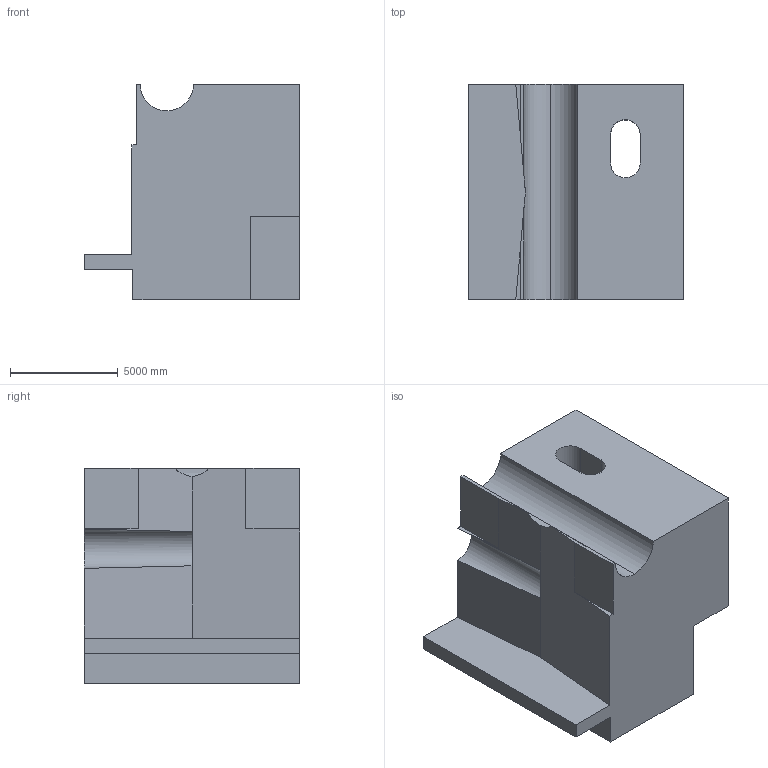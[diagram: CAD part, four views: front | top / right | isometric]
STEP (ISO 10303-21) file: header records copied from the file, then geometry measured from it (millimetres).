
FILE_DESCRIPTION (( 'STEP AP203' ), '1' );
FILE_NAME ('321.STEP', '2022-09-07T12:51:22', ( 'user' ), ( '' ), 'SwSTEP 2.0', 'SolidWorks 2021', '' );
FILE_SCHEMA (( 'CONFIG_CONTROL_DESIGN' ));
Length unit declared in the file: centimetre
Products named in the file (1): 321
Bounding box: 10000 x 10000 x 10000 mm (x, y, z)
Volume: 689323327172.8 mm3; surface area: 631994592.5 mm2
Topology: 1 solids, 1 shells, 29 faces, 80 edges, 53 vertices
Faces by surface type: plane 24, cylinder 5
Entity records: 997 total; most frequent: CARTESIAN_POINT 181, ORIENTED_EDGE 160, DIRECTION 144, EDGE_CURVE 80, LINE 64, VECTOR 64, VERTEX_POINT 53, AXIS2_PLACEMENT_3D 40
